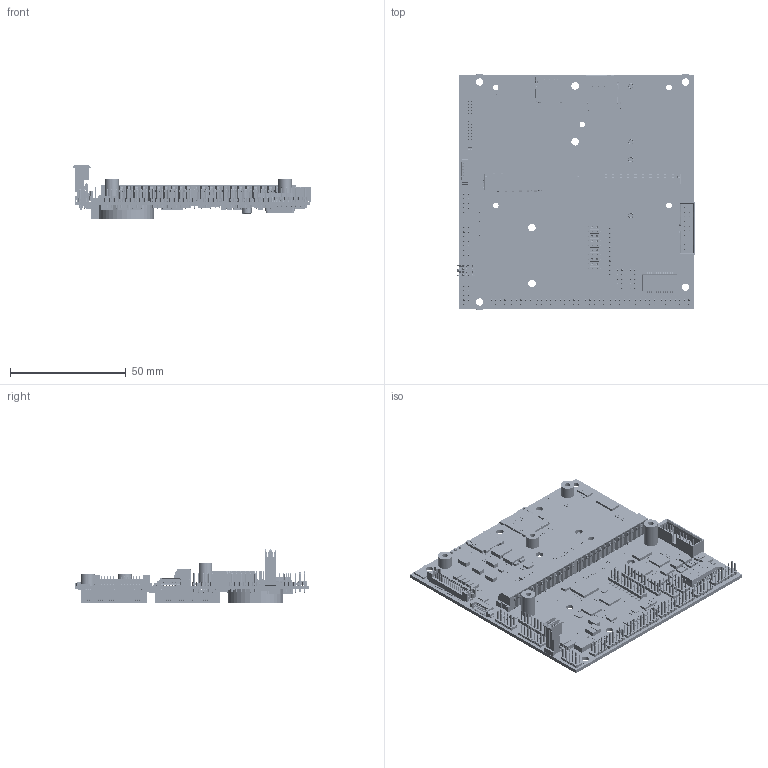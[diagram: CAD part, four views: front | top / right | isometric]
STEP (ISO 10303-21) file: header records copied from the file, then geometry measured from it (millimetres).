
FILE_DESCRIPTION((''),'2;1');
FILE_NAME('7140780-A_EAGLET-BB_ASM','2017-08-30T',('user'),(''),'PRO/ENGINEER BY PARAMETRIC TECHNOLOGY CORPORATION, 2012130','PRO/ENGINEER BY PARAMETRIC TECHNOLOGY CORPORATION, 2012130','');
FILE_SCHEMA(('CONFIG_CONTROL_DESIGN'));
Products named in the file (86): 7140780-A_EAGLET-BB; CAP1206; LED1_6SQ-HT0_7_P4; SOT_533_H_6_P5; SON_004_0185X0125_004_8P; PG-TDSON-9; TP_HOLE_D90MM; TP_SMD_CIR_30; RES2512; CAP_TANTD; VQFN_4X3-H1_P20_EP; DOIC_0230X0010_0031_8P; BATT_PANASONIC_BR_2330A; SOT_1P9_2_1P1_3P; DIO_SMB; BGA_4P_P4MM_P918MMSQ_P5; SOD323-H1_2_P2; SOP_4X5_H1_7_P8_EP; ABM3C_CRY_4L; TDK_ACM2012-900-2P-T002; PSOP95P_50X62-5P; DFN_05_2X2_8P; FUSEM_1P8X01_P75; SLP2510P8_0260X0110_8P; SON40P210X250X50-13N; LTST-C190GKT; TSSOP_65P640X120-24; CAP0805; SOT-23_3L; CAP0603; RES0402; CAP0402; DLW21SN900HQ2L; SC70-6-43M; SOP65P780X200-28N; FB0603; TSSOP_0P65_28L; QFN0P5P_4P83X4P83X1_32P; QFN50P_36P; 7140780-A_EAGLET-BB_28APR17_TOP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
Assembly tree (680 placements, depth 4):
  7140780-A_EAGLET-BB_ASM
    7140780-A_EAGLET-BB
    CAP1206  x19
    LED1_6SQ-HT0_7_P4
    SOT_533_H_6_P5  x7
    SON_004_0185X0125_004_8P  x2
    PG-TDSON-9  x2
    TP_HOLE_D90MM
    TP_SMD_CIR_30  x4
    RES2512
    CAP_TANTD  x2
    VQFN_4X3-H1_P20_EP
    DOIC_0230X0010_0031_8P  x2
    BATT_PANASONIC_BR_2330A
    SOT_1P9_2_1P1_3P
    DIO_SMB
    BGA_4P_P4MM_P918MMSQ_P5  x2
    SOD323-H1_2_P2
    SOP_4X5_H1_7_P8_EP  x2
    ABM3C_CRY_4L
    TDK_ACM2012-900-2P-T002  x7
    PSOP95P_50X62-5P  x6
    DFN_05_2X2_8P  x2
    FUSEM_1P8X01_P75  x2
    SLP2510P8_0260X0110_8P  x10
    SON40P210X250X50-13N
    LTST-C190GKT  x6
    TSSOP_65P640X120-24  x2
    CAP0805  x2
    SOT-23_3L  x2
    CAP0603  x29
    RES0402  x280
    CAP0402  x163
    DLW21SN900HQ2L  x10
    SC70-6-43M
    SOP65P780X200-28N
    FB0603  x19
    TSSOP_0P65_28L
    QFN0P5P_4P83X4P83X1_32P  x4
    QFN50P_36P
    7140780-A_EAGLET-BB_28APR17_ASM
      7140780-A_EAGLET-BB_28APR17_TOP
      7140780-A_EAGLET-BB_28APR17_BOT
      C-2174803-2-G-3D
      532610671
      DF13A-30DP-1_25V_X_8A_S_-315630_ASM
        DF13A-30DP-1_25V_X_8A_S_-315300
      1140084168-REVB_SD_CARD_CONNECT
      WUIR-19A1G4BU3N_ASM
        MSBR-20-1
        MSBR-19-1
        MSBR-18-1
        MSBR-17-1
        MSBR-16-1
        MSBR-15-1
        MSBR-14-1
        MSBR-13-1
        MSBR-12-1
        MSBR-11-1
        MSBR-10-1
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Bounding box: 103.22 x 102.31 x 23.17 mm (x, y, z)
Volume: 62774.8 mm3; surface area: 92535.6 mm2
Topology: 693 solids, 695 shells, 33559 faces, 91802 edges, 59791 vertices
Faces by surface type: plane 24372, cylinder 7925, cone 1151, extrusion 43, torus 36, bspline 32
Entity records: 841206 total; most frequent: CARTESIAN_POINT 163369, ORIENTED_EDGE 145970, DIRECTION 133906, EDGE_CURVE 73047, VECTOR 56432, LINE 56389, VERTEX_POINT 47464, AXIS2_PLACEMENT_3D 38737
